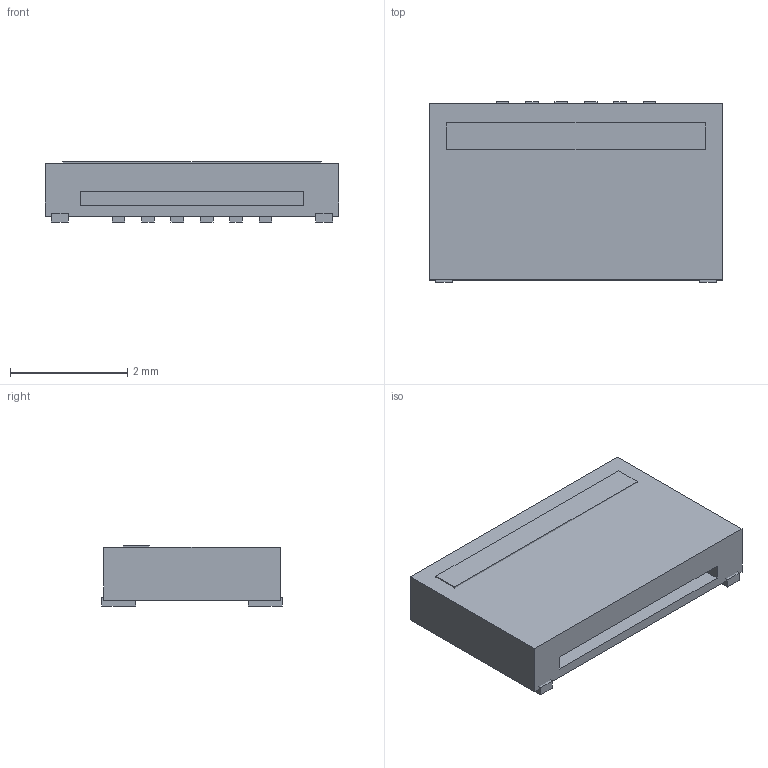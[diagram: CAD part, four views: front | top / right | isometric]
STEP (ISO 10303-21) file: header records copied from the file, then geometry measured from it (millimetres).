
FILE_DESCRIPTION(('Open CASCADE Model'),'2;1');
FILE_NAME('Open CASCADE Shape Model','2026-10-19T06:28:22',('Author'),( 'Open CASCADE'),'Open CASCADE STEP processor 7.8','Open CASCADE 7.8' ,'Unknown');
FILE_SCHEMA(('AUTOMOTIVE_DESIGN { 1 0 10303 214 1 1 1 1 }'));
Length unit declared in the file: millimetre
Products named in the file (11): FH19C_6_nominal; Housing_nominal; Latch_nominal; Contact_1; Contact_2; Contact_3; Contact_4; Contact_5; Contact_6; Contact_MP_6; Contact_MP_7
Assembly tree (10 placements, depth 2):
  FH19C_6_nominal
    Housing_nominal
    Latch_nominal
    Contact_1
    Contact_2
    Contact_3
    Contact_4
    Contact_5
    Contact_6
    Contact_MP_6
    Contact_MP_7
Bounding box: 5 x 3.08 x 1.02 mm (x, y, z)
Volume: 13.5 mm3; surface area: 57.6 mm2
Topology: 10 solids, 10 shells, 65 faces, 132 edges, 88 vertices
Faces by surface type: plane 65
Entity records: 3629 total; most frequent: CARTESIAN_POINT 568, DIRECTION 540, LINE 388, VECTOR 388, ORIENTED_EDGE 264, PCURVE 264, DEFINITIONAL_REPRESENTATION 264, EDGE_CURVE 132
